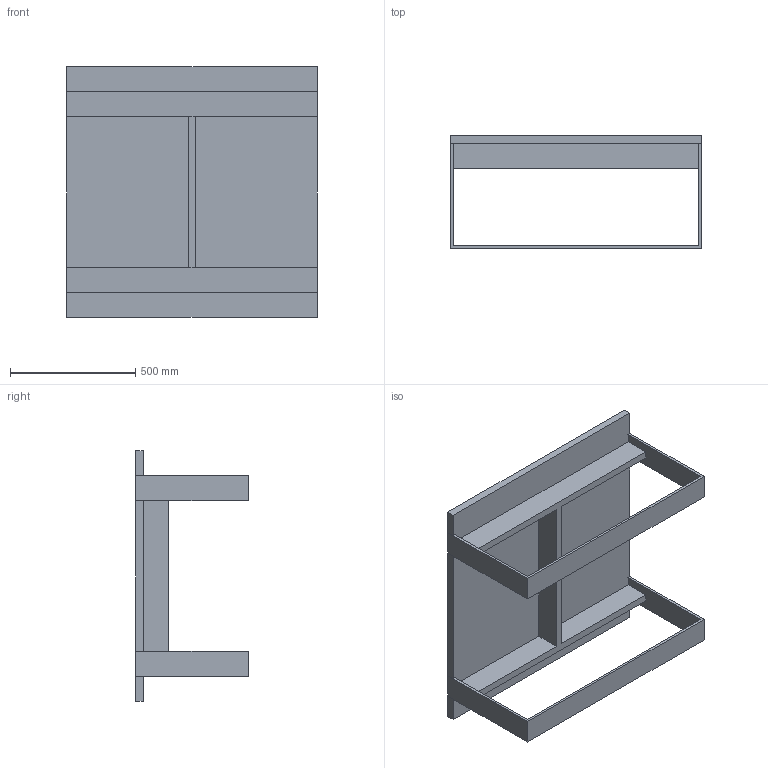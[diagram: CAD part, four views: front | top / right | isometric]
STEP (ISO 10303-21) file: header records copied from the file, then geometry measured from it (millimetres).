
FILE_DESCRIPTION (( 'STEP AP203' ), '1' );
FILE_NAME ('Haag Coffee table.STEP', '2019-04-02T17:52:46', ( '' ), ( '' ), 'SwSTEP 2.0', 'SolidWorks 2019', '' );
FILE_SCHEMA (( 'CONFIG_CONTROL_DESIGN' ));
Length unit declared in the file: millimetre
Products named in the file (1): Haag Coffee table
Bounding box: 1000 x 450 x 1000 mm (x, y, z)
Volume: 41530000 mm3; surface area: 4097800 mm2
Topology: 4 solids, 4 shells, 56 faces, 144 edges, 96 vertices
Faces by surface type: plane 56
Entity records: 1747 total; most frequent: CARTESIAN_POINT 297, ORIENTED_EDGE 288, DIRECTION 258, LINE 144, EDGE_CURVE 144, VECTOR 144, VERTEX_POINT 96, EDGE_LOOP 60
